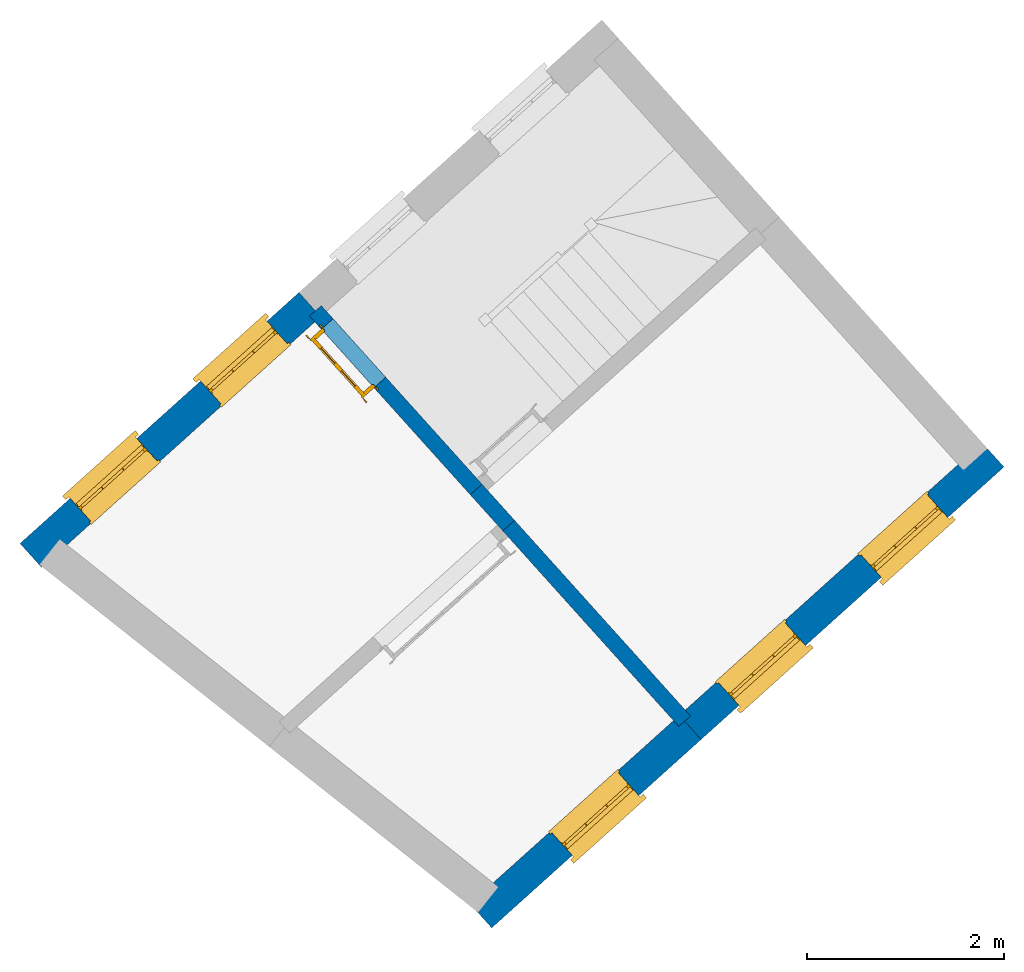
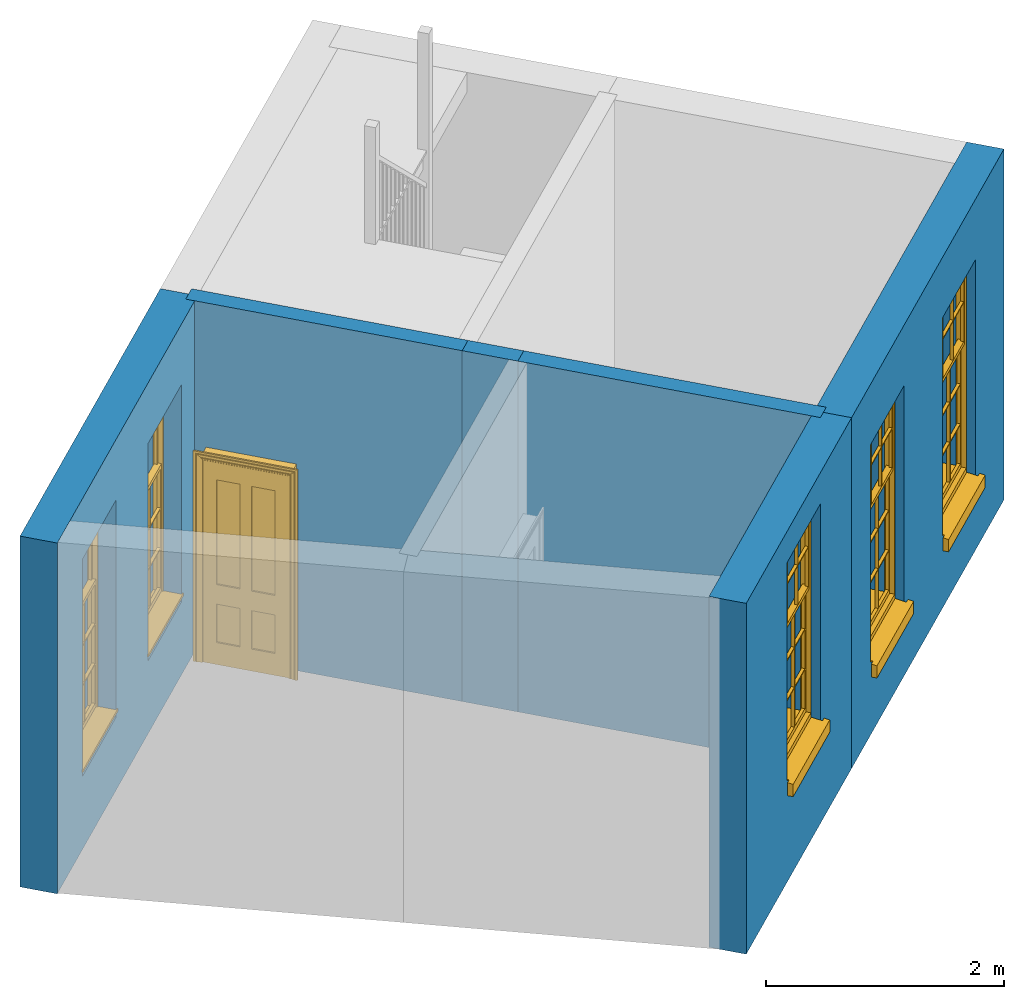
# One storey, part 2 of 4: 6 walls, 5 windows, 1 door, 6 openings.
"""IFC4 building model written with IfcOpenShell, lengths in metres."""

from ifc_helpers import new_model, si_unit, frame, origin, origin_with_axes, place, context, subcontext, project, spatial, polyline, outline, extrude, faceted_brep, source, transform, mapped, material, layer, layer_set, layer_usage, type_object, type_shapes, element, fill, save


model = new_model("IFC4")

# Units and contexts
model_context = context("Model", 3, world=origin_with_axes())
body_context = subcontext(model_context, "Body", "Model", "MODEL_VIEW")
ifc_project = project(units=[si_unit("PLANEANGLEUNIT", "RADIAN"), si_unit("MASSUNIT", "GRAM", prefix="KILO"), si_unit("FORCEUNIT", "NEWTON", prefix="KILO"), si_unit("LENGTHUNIT", "METRE"), si_unit("AREAUNIT", "SQUARE_METRE"), si_unit("VOLUMEUNIT", "CUBIC_METRE")], contexts=[model_context, model_context])

# Sites, building, storey
site_1_placement = place(None, origin_with_axes())
site_1 = spatial("IfcSite", under=ifc_project, at=site_1_placement, Name="Tamar")
site_2_placement = place(site_1_placement, origin_with_axes())
site_2 = spatial("IfcSite", under=site_1, at=site_2_placement, Name="Site plot-6", CompositionType="ELEMENT")
building_placement = place(None, origin_with_axes())
building = spatial("IfcBuilding", under=site_2, at=building_placement, Name="Building plot-6", CompositionType="ELEMENT")
storey_placement = place(None, frame((0.0, 0.0, 28.1), z_axis=(0.0, 0.0, 1.0), x_axis=(1.0, 0.0, 0.0)))
storey = spatial("IfcBuildingStorey", under=building, at=storey_placement, Name="plot-6 1", CompositionType="ELEMENT", Elevation=28.1)

# Wall, opening, window
ifc_material_1 = material(Name="Masonry")
ifc_layer_1 = layer(ifc_material_1, 0.33, ventilated=False)
ifc_layer_set_1 = layer_set([ifc_layer_1], Name="exterior_0.08_0.25")
ifc_layer_usage_1 = layer_usage(ifc_layer_set_1, "AXIS2", "POSITIVE", -0.25)
wall_type_1 = type_object("IfcWallType", Name="exterior_0.08_0.25", PredefinedType="SOLIDWALL", material=ifc_layer_set_1)
wall_1_placement = place(storey_placement, frame((235.821303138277, 276.271643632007, 0.0), z_axis=(0.0, 0.0, 1.0), x_axis=(0.743394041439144, 0.668853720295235, 0.0)))
wall_1 = element("IfcWall", 1, at=wall_1_placement, inside=storey, type_object=wall_type_1, material=ifc_layer_usage_1, Name="exterior", context=body_context, shape_type="SweptSolid", body=[
    extrude(outline(polyline([(-0.249999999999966, 0.0800000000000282), (-0.249999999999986, -0.249999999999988), (2.61264256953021, -0.250000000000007), (2.61264256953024, 0.0800000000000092), (-0.249999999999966, 0.0800000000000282)])), origin_with_axes(), (0.0, 0.0, 1.0), 3.6),
])
opening_1_placement = place(wall_1_placement, frame((0.851321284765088, 0.0, 1.05)))
opening_1 = element("IfcOpeningElement", 2, at=opening_1_placement, cuts=wall_1, Name="My Opening", ObjectType="Opening", context=body_context, shape_type="SweptSolid", body=[
    extrude(outline(polyline([(0.0, -0.269999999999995), (0.910000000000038, -0.269999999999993), (0.910000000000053, 1.10000000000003), (1.50990331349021e-14, 1.10000000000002), (0.0, -0.269999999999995)])), origin_with_axes(), (0.0, 0.0, 1.0), 2.23),
])
window_type = type_object("IfcWindowType", Name="sash_big_taller", PartitioningType="DOUBLE_PANEL_HORIZONTAL", PredefinedType="NOTDEFINED")
shared_shape_1 = source(origin(), body_context, "Body", "Brep", [
    faceted_brep([(0.033125, 0.145, 1.385209), (0.01, 0.145, 1.385209), (0.033125, 0.145, 1.786042), (0.876875, 0.145, 1.385209), (0.876875, 0.145, 1.786042), (0.9, 0.145, 1.385209), (0.876875, 0.145, 1.796042), (0.876875, 0.145, 2.196875), (0.9, 0.145, 2.22), (0.033125, 0.145, 2.196875), (0.033125, 0.145, 1.796042), (0.01, 0.145, 2.22), (0.876875, 0.115, 1.786042), (0.876875, 0.115, 1.385209), (0.9, 0.115, 1.347084), (0.033125, 0.115, 2.196875), (0.01, 0.115, 2.22), (0.033125, 0.115, 1.796042), (0.01, 0.115, 1.347084), (0.033125, 0.115, 1.385209), (0.033125, 0.115, 1.786042), (0.876875, 0.115, 2.196875), (0.876875, 0.115, 1.796042), (0.9, 0.115, 2.22), (0.033125, 0.145, 1.347084), (0.01, 0.145, 1.347084), (0.033125, 0.145, 0.94625), (0.876875, 0.145, 1.347084), (0.876875, 0.145, 0.94625), (0.9, 0.145, 1.347084), (0.876875, 0.145, 0.52625), (0.876875, 0.145, 0.125417), (0.9, 0.145, 0.077167), (0.033125, 0.145, 0.125417), (0.033125, 0.145, 0.52625), (0.01, 0.145, 0.077167), (-0.0425, 0.0, 0.01), (-0.0425, -0.05, 0.001667), (0.0, 0.0, 0.01), (0.9525, 0.0, 0.01), (0.91, 0.0, 0.01), (0.9525, -0.05, 0.001667), (-0.02, 0.33, 0.077167), (0.0, 0.33, 0.077167), (-0.02, 0.36, 0.077167), (0.0, 0.19, 0.077167), (0.01, 0.19, 0.077167), (0.91, 0.19, 0.077167), (0.91, 0.33, 0.077167), (0.9, 0.19, 0.077167), (0.93, 0.33, 0.077167), (0.93, 0.36, 0.077167), (0.01, 0.175, 1.385209), (0.9, 0.175, 1.385209), (0.876875, 0.175, 0.125417), (0.876875, 0.175, 0.52625), (0.9, 0.175, 0.077167), (0.876875, 0.175, 0.94625), (0.876875, 0.175, 1.347084), (0.033125, 0.175, 0.125417), (0.01, 0.175, 0.077167), (0.033125, 0.175, 0.52625), (0.033125, 0.175, 1.347084), (0.033125, 0.175, 0.94625), (-0.02, 0.33, 0.052167), (-0.02, 0.36, 0.052167), (0.93, 0.36, 0.052167), (0.93, 0.33, 0.052167), (0.91, 0.33, 0.052167), (0.0, 0.33, 0.052167), (0.91, 0.1, 0.026667), (0.0, 0.1, 0.026667), (-0.0425, -0.05, -0.123333), (0.9525, -0.05, -0.123333), (-0.0425, 0.0, -0.123333), (0.9525, 0.0, -0.123333), (0.01, 0.19, 2.22), (0.9, 0.19, 2.22), (0.0, 0.19, 2.23), (0.91, 0.19, 2.23), (0.01, 0.1, 0.077167), (0.9, 0.1, 0.077167), (0.592292, 0.145, 0.125417), (0.592292, 0.175, 0.125417), (0.317708, 0.175, 0.125417), (0.317708, 0.145, 0.125417), (0.592292, 0.145, 0.53625), (0.317708, 0.145, 0.53625), (0.317708, 0.145, 0.52625), (0.592292, 0.145, 0.52625), (0.592292, 0.175, 0.53625), (0.317708, 0.175, 0.53625), (0.592292, 0.115, 1.796042), (0.592292, 0.145, 1.796042), (0.317708, 0.145, 1.796042), (0.317708, 0.115, 1.796042), (0.317708, 0.115, 1.786042), (0.592292, 0.115, 1.786042), (0.317708, 0.145, 1.786042), (0.592292, 0.145, 1.786042), (0.602292, 0.115, 1.786042), (0.592292, 0.115, 1.385209), (0.602292, 0.115, 1.385209), (0.602292, 0.145, 1.385209), (0.592292, 0.145, 1.385209), (0.602292, 0.145, 1.786042), (0.876875, 0.145, 0.53625), (0.876875, 0.175, 0.53625), (0.602292, 0.175, 0.53625), (0.602292, 0.145, 0.53625), (0.317708, 0.175, 0.52625), (0.307708, 0.175, 0.125417), (0.307708, 0.175, 0.52625), (0.602292, 0.175, 0.52625), (0.602292, 0.175, 0.125417), (0.592292, 0.175, 0.52625), (0.307708, 0.175, 0.53625), (0.033125, 0.175, 0.53625), (0.317708, 0.175, 1.347084), (0.317708, 0.175, 0.94625), (0.307708, 0.175, 0.94625), (0.307708, 0.175, 1.347084), (0.602292, 0.175, 1.347084), (0.602292, 0.175, 0.94625), (0.592292, 0.175, 0.94625), (0.592292, 0.175, 1.347084), (0.307708, 0.145, 0.52625), (0.307708, 0.145, 0.125417), (0.307708, 0.145, 0.53625), (0.033125, 0.145, 0.53625), (0.307708, 0.145, 1.347084), (0.307708, 0.145, 0.94625), (0.592292, 0.145, 1.347084), (0.592292, 0.145, 0.94625), (0.317708, 0.145, 0.94625), (0.317708, 0.145, 1.347084), (0.602292, 0.145, 0.94625), (0.602292, 0.145, 1.347084), (0.602292, 0.145, 0.52625), (0.602292, 0.145, 0.125417), (0.307708, 0.115, 1.796042), (0.307708, 0.115, 1.786042), (0.307708, 0.115, 1.385209), (0.317708, 0.115, 1.385209), (0.317708, 0.115, 2.196875), (0.307708, 0.115, 2.196875), (0.602292, 0.115, 2.196875), (0.592292, 0.115, 2.196875), (0.602292, 0.115, 1.796042), (0.602292, 0.145, 1.796042), (0.307708, 0.145, 1.796042), (0.307708, 0.145, 2.196875), (0.317708, 0.145, 2.196875), (0.592292, 0.145, 2.196875), (0.602292, 0.145, 2.196875), (0.307708, 0.145, 1.786042), (0.317708, 0.145, 1.385209), (0.307708, 0.145, 1.385209), (0.876875, 0.175, 0.93625), (0.033125, 0.175, 0.93625), (0.033125, 0.145, 0.93625), (0.876875, 0.145, 0.93625), (0.91, 0.1, 2.23), (0.9, 0.1, 2.22), (0.01, 0.1, 2.22), (0.0, 0.1, 2.23), (0.91, 0.0, 0.0), (0.0, 0.0, 0.0), (0.91, 0.33, 0.0), (0.0, 0.33, 0.0), (0.317708, 0.145, 0.93625), (0.592292, 0.145, 0.93625), (0.317708, 0.175, 0.93625), (0.307708, 0.175, 0.93625), (0.602292, 0.175, 0.93625), (0.592292, 0.175, 0.93625), (0.307708, 0.145, 0.93625), (0.602292, 0.145, 0.93625)], [[[0, 1, 2]], [[3, 4, 5]], [[6, 7, 8]], [[9, 10, 11]], [[12, 13, 14]], [[15, 16, 17]], [[18, 19, 20]], [[21, 22, 23]], [[24, 25, 26]], [[27, 28, 29]], [[30, 31, 32]], [[33, 34, 35]], [[14, 27, 29]], [[25, 24, 18]], [[36, 37, 38]], [[39, 40, 41]], [[42, 43, 44]], [[45, 46, 43]], [[47, 48, 49]], [[50, 51, 48]], [[1, 0, 52]], [[5, 53, 3]], [[54, 55, 56]], [[57, 58, 53]], [[59, 60, 61]], [[62, 63, 52]], [[48, 43, 46, 49]], [[51, 44, 43, 48]], [[64, 42, 44, 65]], [[65, 44, 51, 66]], [[66, 51, 50, 67]], [[65, 66, 68, 69]], [[60, 56, 49, 46]], [[70, 71, 38, 40]], [[37, 41, 40, 38]], [[37, 72, 73, 41]], [[74, 75, 73, 72]], [[8, 11, 76, 77]], [[76, 78, 79, 77]], [[32, 35, 80, 81]], [[81, 80, 71, 70]], [[82, 83, 84, 85]], [[86, 87, 88, 89]], [[86, 90, 91, 87]], [[92, 93, 94, 95]], [[92, 95, 96, 97]], [[96, 98, 99, 97]], [[100, 97, 101, 102]], [[103, 104, 99, 105]], [[97, 99, 104, 101]], [[102, 103, 105, 100]], [[106, 107, 108, 109]], [[110, 84, 111, 112]], [[113, 114, 83, 115]], [[116, 112, 61, 117]], [[90, 115, 110, 91]], [[118, 119, 120, 121]], [[122, 123, 124, 125]], [[113, 108, 107, 55]], [[126, 112, 111, 127]], [[34, 61, 112, 126]], [[89, 115, 83, 82]], [[88, 110, 115, 89]], [[85, 84, 110, 88]], [[128, 116, 117, 129]], [[130, 121, 120, 131]], [[132, 125, 124, 133]], [[134, 119, 118, 135]], [[136, 123, 122, 137]], [[138, 113, 55, 30]], [[139, 114, 113, 138]], [[138, 30, 106, 109]], [[88, 126, 127, 85]], [[138, 89, 82, 139]], [[137, 132, 133, 136]], [[128, 129, 34, 126]], [[135, 130, 131, 134]], [[140, 17, 20, 141]], [[96, 141, 142, 143]], [[144, 145, 140, 95]], [[146, 147, 92, 148]], [[100, 12, 22, 148]], [[149, 6, 4, 105]], [[94, 150, 151, 152]], [[149, 93, 153, 154]], [[99, 98, 94, 93]], [[155, 2, 10, 150]], [[156, 157, 155, 98]], [[141, 155, 157, 142]], [[20, 2, 155, 141]], [[143, 156, 98, 96]], [[140, 150, 10, 17]], [[145, 151, 150, 140]], [[147, 153, 93, 92]], [[95, 94, 152, 144]], [[22, 6, 149, 148]], [[148, 149, 154, 146]], [[100, 105, 4, 12]], [[109, 86, 89, 138]], [[108, 113, 115, 90]], [[91, 110, 112, 116]], [[87, 128, 126, 88]], [[97, 100, 148, 92]], [[141, 96, 95, 140]], [[98, 155, 150, 94]], [[105, 99, 93, 149]], [[143, 101, 104, 156]], [[135, 118, 125, 132]], [[144, 152, 153, 147]], [[127, 111, 59, 33]], [[15, 9, 151, 145]], [[146, 154, 7, 21]], [[31, 54, 114, 139]], [[36, 74, 72, 37]], [[39, 41, 73, 75]], [[18, 14, 101, 143]], [[23, 16, 144, 147]], [[83, 56, 60, 84]], [[52, 53, 125, 118]], [[53, 52, 156, 104]], [[11, 8, 153, 152]], [[14, 18, 135, 132]], [[2, 1, 11, 10]], [[8, 5, 4, 6]], [[57, 53, 56, 158]], [[60, 52, 63, 159]], [[26, 25, 35, 160]], [[32, 29, 28, 161]], [[14, 23, 22, 12]], [[18, 20, 17, 16]], [[19, 0, 2, 20]], [[17, 10, 9, 15]], [[12, 4, 3, 13]], [[21, 7, 6, 22]], [[27, 58, 57, 28]], [[30, 55, 54, 31]], [[33, 59, 61, 34]], [[26, 63, 62, 24]], [[5, 8, 77, 53]], [[76, 11, 1, 52]], [[46, 45, 78, 76]], [[49, 77, 79, 47]], [[70, 162, 163, 81]], [[71, 80, 164, 165]], [[19, 142, 157, 0]], [[102, 13, 3, 103]], [[121, 130, 24, 62]], [[29, 32, 81, 14]], [[80, 35, 25, 18]], [[60, 46, 76, 52]], [[77, 49, 56, 53]], [[23, 14, 81, 163]], [[16, 164, 80, 18]], [[35, 85, 127]], [[127, 33, 35]], [[139, 82, 32]], [[32, 31, 139]], [[32, 82, 85, 35]], [[102, 101, 14]], [[14, 13, 102]], [[18, 143, 142]], [[142, 19, 18]], [[146, 21, 23]], [[23, 147, 146]], [[16, 15, 145]], [[145, 144, 16]], [[11, 152, 151]], [[151, 9, 11]], [[154, 153, 8]], [[8, 7, 154]], [[23, 163, 164, 16]], [[162, 165, 164, 163]], [[52, 118, 121]], [[121, 62, 52]], [[125, 53, 122]], [[58, 122, 53]], [[27, 137, 122, 58]], [[56, 83, 114]], [[114, 54, 56]], [[111, 84, 60]], [[60, 59, 111]], [[137, 27, 14]], [[14, 132, 137]], [[130, 135, 18]], [[18, 24, 130]], [[157, 156, 52]], [[52, 0, 157]], [[103, 3, 53]], [[53, 104, 103]], [[79, 78, 165, 162]], [[78, 45, 71, 165]], [[162, 70, 47, 79]], [[166, 75, 74, 167]], [[68, 66, 67]], [[48, 68, 67, 50]], [[69, 64, 65]], [[42, 64, 69, 43]], [[69, 68, 168, 169]], [[70, 68, 48, 47]], [[166, 168, 68, 70]], [[43, 69, 71, 45]], [[69, 169, 167, 71]], [[168, 166, 167, 169]], [[38, 167, 74, 36]], [[71, 167, 38]], [[39, 75, 166, 40]], [[40, 166, 70]], [[133, 134, 170, 171]], [[133, 124, 119, 134]], [[28, 57, 123, 136]], [[172, 91, 116, 173]], [[174, 108, 90, 175]], [[120, 173, 159, 63]], [[124, 175, 172, 119]], [[174, 123, 57, 158]], [[176, 173, 116, 128]], [[160, 159, 173, 176]], [[171, 175, 90, 86]], [[170, 172, 175, 171]], [[87, 91, 172, 170]], [[131, 120, 63, 26]], [[177, 174, 158, 161]], [[109, 108, 174, 177]], [[177, 161, 28, 136]], [[170, 176, 128, 87]], [[177, 171, 86, 109]], [[131, 26, 160, 176]], [[136, 133, 171, 177]], [[123, 174, 175, 124]], [[119, 172, 173, 120]], [[134, 131, 176, 170]], [[129, 117, 159, 160]], [[161, 158, 107, 106]], [[35, 34, 129]], [[35, 129, 160]], [[32, 106, 30]], [[32, 161, 106]], [[56, 55, 107]], [[56, 107, 158]], [[60, 117, 61]], [[60, 159, 117]]]),
])
type_shapes(window_type, [shared_shape_1])
window_1_placement = place(storey_placement, frame((236.634760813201, 276.6403366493, 1.05), z_axis=(0.0, 0.0, 1.0), x_axis=(0.676488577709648, 0.60865688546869, 0.0)))
window_1 = element("IfcWindow", 3, at=window_1_placement, inside=storey, type_object=window_type, Name="kitchen outside window", OverallHeight=2.23, OverallWidth=0.91, context=body_context, shape_type="MappedRepresentation", body=[
    mapped(shared_shape_1, transform((0.0, 0.0, 0.0), scale=1.0)),
])
fill(opening_1, window_1)

# Wall, openings, windows
wall_2_placement = place(storey_placement, frame((237.763526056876, 278.019119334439, 0.0), z_axis=(0.0, 0.0, 1.0), x_axis=(0.743394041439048, 0.668853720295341, 0.0)))
wall_2 = element("IfcWall", 4, at=wall_2_placement, inside=storey, type_object=wall_type_1, material=ifc_layer_usage_1, Name="exterior", context=body_context, shape_type="SweptSolid", body=[
    extrude(outline(polyline([(3.37734421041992e-14, 0.0800000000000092), (-3.37354718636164e-14, -0.250000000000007), (4.14063342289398, -0.25000000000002), (4.14063342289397, 0.0799999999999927), (3.37734421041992e-14, 0.0800000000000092)])), origin_with_axes(), (0.0, 0.0, 1.0), 3.6),
])
opening_2_placement = place(wall_2_placement, frame((0.517658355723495, 0.0, 0.75)))
opening_2 = element("IfcOpeningElement", 5, at=opening_2_placement, cuts=wall_2, Name="My Opening", ObjectType="Opening", context=body_context, shape_type="SweptSolid", body=[
    extrude(outline(polyline([(0.0, -0.269999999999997), (0.909999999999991, -0.270000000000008), (0.91000000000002, 1.10000000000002), (2.91988655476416e-14, 1.10000000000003), (0.0, -0.269999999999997)])), origin_with_axes(), (0.0, 0.0, 1.0), 2.23),
])
opening_3_placement = place(wall_2_placement, frame((2.46297506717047, 0.0, 0.75)))
opening_3 = element("IfcOpeningElement", 6, at=opening_3_placement, cuts=wall_2, Name="My Opening", ObjectType="Opening", context=body_context, shape_type="SweptSolid", body=[
    extrude(outline(polyline([(0.0, -0.270000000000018), (0.909999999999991, -0.270000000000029), (0.910000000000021, 1.1), (2.93098878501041e-14, 1.10000000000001), (0.0, -0.270000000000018)])), origin_with_axes(), (0.0, 0.0, 1.0), 2.23),
])
window_2_placement = place(storey_placement, frame((238.328940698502, 278.164640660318, 0.75), z_axis=(0.0, 0.0, 1.0), x_axis=(0.676488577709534, 0.608656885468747, 0.0)))
window_2 = element("IfcWindow", 7, at=window_2_placement, inside=storey, type_object=window_type, Name="bedroom outside window", OverallHeight=2.23, OverallWidth=0.91, context=body_context, shape_type="MappedRepresentation", body=[
    mapped(shared_shape_1, transform((0.0, 0.0, 0.0), scale=1.0)),
])
fill(opening_2, window_2)
window_3_placement = place(storey_placement, frame((239.775077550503, 279.465772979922, 0.75), z_axis=(0.0, 0.0, 1.0), x_axis=(0.676488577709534, 0.608656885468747, 0.0)))
window_3 = element("IfcWindow", 8, at=window_3_placement, inside=storey, type_object=window_type, Name="bedroom outside window", OverallHeight=2.23, OverallWidth=0.91, context=body_context, shape_type="MappedRepresentation", body=[
    mapped(shared_shape_1, transform((0.0, 0.0, 0.0), scale=1.0)),
])
fill(opening_3, window_3)

wall_3_placement = place(storey_placement, frame((234.010812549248, 282.190053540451, 0.0), z_axis=(0.0, 0.0, 1.0), x_axis=(-0.743394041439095, -0.668853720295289, 0.0)))
wall_3 = element("IfcWall", 9, at=wall_3_placement, inside=storey, type_object=wall_type_1, material=ifc_layer_usage_1, Name="exterior", context=body_context, shape_type="SweptSolid", body=[
    extrude(outline(polyline([(-3.09943590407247e-14, 0.0799999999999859), (4.90028939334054e-15, -0.250000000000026), (3.81343681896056, -0.249999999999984), (3.81343681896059, 0.0800000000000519), (-3.09943590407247e-14, 0.0799999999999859)])), origin_with_axes(), (0.0, 0.0, 1.0), 3.6),
])
opening_4_placement = place(wall_3_placement, frame((0.435859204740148, 0.0, 0.75)))
opening_4 = element("IfcOpeningElement", 10, at=opening_4_placement, cuts=wall_3, Name="My Opening", ObjectType="Opening", context=body_context, shape_type="SweptSolid", body=[
    extrude(outline(polyline([(0.0, -0.27), (0.909999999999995, -0.270000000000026), (0.910000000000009, 1.10000000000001), (1.32116539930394e-14, 1.10000000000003), (0.0, -0.27)])), origin_with_axes(), (0.0, 0.0, 1.0), 2.23),
])
opening_5_placement = place(wall_3_placement, frame((2.21757761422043, 0.0, 0.75)))
opening_5 = element("IfcOpeningElement", 11, at=opening_5_placement, cuts=wall_3, Name="My Opening", ObjectType="Opening", context=body_context, shape_type="SweptSolid", body=[
    extrude(outline(polyline([(0.0, -0.269999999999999), (0.909999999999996, -0.270000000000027), (0.91000000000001, 1.10000000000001), (1.33226762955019e-14, 1.10000000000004), (0.0, -0.269999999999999)])), origin_with_axes(), (0.0, 0.0, 1.0), 2.23),
])
window_4_placement = place(storey_placement, frame((233.506206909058, 282.099243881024, 0.75), z_axis=(0.0, 0.0, 1.0), x_axis=(-0.676488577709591, -0.60865688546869, 0.0)))
window_4 = element("IfcWindow", 12, at=window_4_placement, inside=storey, type_object=window_type, Name="living outside window", OverallHeight=2.23, OverallWidth=0.91, context=body_context, shape_type="MappedRepresentation", body=[
    mapped(shared_shape_1, transform((0.0, 0.0, 0.0), scale=1.0)),
])
fill(opening_4, window_4)
window_5_placement = place(storey_placement, frame((232.181688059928, 280.907534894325, 0.75), z_axis=(0.0, 0.0, 1.0), x_axis=(-0.676488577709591, -0.60865688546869, 0.0)))
window_5 = element("IfcWindow", 13, at=window_5_placement, inside=storey, type_object=window_type, Name="living outside window", OverallHeight=2.23, OverallWidth=0.91, context=body_context, shape_type="MappedRepresentation", body=[
    mapped(shared_shape_1, transform((0.0, 0.0, 0.0), scale=1.0)),
])
fill(opening_5, window_5)

# Walls
ifc_material_2 = material(Name="Masonry")
ifc_layer_2 = layer(ifc_material_2, 0.16, ventilated=False)
ifc_layer_set_2 = layer_set([ifc_layer_2], Name="interior_0.08_0.08")
ifc_layer_usage_2 = layer_usage(ifc_layer_set_2, "AXIS2", "POSITIVE", -0.08)
wall_type_2 = type_object("IfcWallType", Name="interior_0.08_0.08", PredefinedType="SOLIDWALL", material=ifc_layer_set_2)
wall_4_placement = place(storey_placement, frame((235.645446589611, 280.373247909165, 0.0), z_axis=(0.0, 0.0, 1.0), x_axis=(0.668853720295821, -0.743394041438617, 0.0)))
element("IfcWall", 14, at=wall_4_placement, inside=storey, type_object=wall_type_2, material=ifc_layer_usage_2, Name="interior", context=body_context, shape_type="SweptSolid", body=[
    extrude(outline(polyline([(-1.60178401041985e-14, 0.0800000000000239), (1.59725157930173e-14, -0.0800000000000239), (0.49250937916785, -0.0800000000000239), (0.492509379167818, 0.0800000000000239), (-1.60178401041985e-14, 0.0800000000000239)])), origin_with_axes(), (0.0, 0.0, 1.0), 3.6),
])
wall_5_placement = place(storey_placement, frame((235.974863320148, 280.007119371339, 0.0), z_axis=(0.0, 0.0, 1.0), x_axis=(0.668853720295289, -0.743394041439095, 0.0)))
element("IfcWall", 15, at=wall_5_placement, inside=storey, type_object=wall_type_2, material=ifc_layer_usage_2, Name="interior", context=body_context, shape_type="SweptSolid", body=[
    extrude(outline(polyline([(-1.19322193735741e-14, 0.080000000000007), (1.1922422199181e-14, -0.080000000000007), (2.67422110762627, -0.0800000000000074), (2.67422110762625, 0.0800000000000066), (-1.19322193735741e-14, 0.080000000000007)])), origin_with_axes(), (0.0, 0.0, 1.0), 3.6),
])

# Wall, opening, door
wall_6_placement = place(storey_placement, frame((235.645446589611, 280.373247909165, 0.0), z_axis=(0.0, 0.0, 1.0), x_axis=(-0.668853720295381, 0.743394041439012, 0.0)))
wall_6 = element("IfcWall", 16, at=wall_6_placement, inside=storey, type_object=wall_type_2, material=ifc_layer_usage_2, Name="interior", context=body_context, shape_type="SweptSolid", body=[
    extrude(outline(polyline([(-2.09120248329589e-15, 0.080000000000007), (2.08323608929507e-15, -0.080000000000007), (2.44393353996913, -0.0800000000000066), (2.44393353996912, 0.0800000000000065), (-2.09120248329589e-15, 0.080000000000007)])), origin_with_axes(), (0.0, 0.0, 1.0), 3.6),
])
opening_6_placement = place(wall_6_placement, frame((1.46393353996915, 0.0, 0.0199999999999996)))
opening_6 = element("IfcOpeningElement", 17, at=opening_6_placement, cuts=wall_6, Name="My Opening", ObjectType="Opening", context=body_context, shape_type="SweptSolid", body=[
    extrude(outline(polyline([(0.0, -0.100000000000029), (0.79999999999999, -0.100000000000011), (0.799999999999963, 1.10000000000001), (-2.70894418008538e-14, 1.1), (0.0, -0.100000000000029)])), origin_with_axes(), (0.0, 0.0, 1.0), 2.1),
])
door_type = type_object("IfcDoorType", Name="door_inside", OperationType="SINGLE_SWING_LEFT", PredefinedType="NOTDEFINED")
shared_shape_2 = source(origin(), body_context, "Body", "Brep", [
    faceted_brep([(0.773, 0.33, 1.895), (0.66, 0.33, 1.895), (0.66, 0.33, 2.073), (0.773, 0.33, 2.073), (0.773, 0.33, 0.82), (0.66, 0.33, 0.82), (0.45, 0.33, 1.895), (0.45, 0.33, 2.073), (0.773, 0.33, 0.62), (0.66, 0.33, 0.62), (0.66, 0.315, 0.82), (0.66, 0.315, 1.895), (0.45, 0.315, 1.895), (0.35, 0.33, 1.895), (0.35, 0.33, 2.073), (0.773, 0.33, 0.225), (0.66, 0.33, 0.225), (0.45, 0.33, 0.62), (0.45, 0.33, 0.82), (0.45, 0.315, 0.82), (0.35, 0.33, 0.82), (0.14, 0.33, 2.073), (0.14, 0.33, 1.895), (0.773, 0.33, 0.0), (0.66, 0.33, 0.0), (0.66, 0.315, 0.225), (0.66, 0.315, 0.62), (0.45, 0.315, 0.62), (0.35, 0.33, 0.62), (0.35, 0.315, 0.82), (0.35, 0.315, 1.895), (0.14, 0.315, 1.895), (0.027, 0.33, 2.073), (0.027, 0.33, 1.895), (0.773, 0.292, 0.0), (0.66, 0.292, 0.0), (0.45, 0.33, 0.0), (0.45, 0.33, 0.225), (0.45, 0.315, 0.225), (0.35, 0.33, 0.225), (0.14, 0.33, 0.82), (0.14, 0.33, 0.62), (0.14, 0.315, 0.82), (0.027, 0.33, 0.82), (0.773, 0.292, 0.225), (0.66, 0.292, 0.225), (0.45, 0.292, 0.0), (0.35, 0.33, 0.0), (0.35, 0.315, 0.225), (0.35, 0.315, 0.62), (0.14, 0.315, 0.62), (0.027, 0.33, 0.62), (0.773, 0.292, 0.62), (0.66, 0.292, 0.62), (0.45, 0.292, 0.225), (0.35, 0.292, 0.0), (0.14, 0.33, 0.225), (0.14, 0.33, 0.0), (0.14, 0.315, 0.225), (0.027, 0.33, 0.225), (0.773, 0.292, 0.82), (0.66, 0.292, 0.82), (0.66, 0.307, 0.62), (0.66, 0.307, 0.225), (0.45, 0.307, 0.225), (0.35, 0.292, 0.225), (0.14, 0.292, 0.0), (0.027, 0.33, 0.0), (0.773, 0.292, 1.895), (0.66, 0.292, 1.895), (0.45, 0.292, 0.62), (0.45, 0.292, 0.82), (0.45, 0.307, 0.62), (0.35, 0.292, 0.62), (0.14, 0.292, 0.225), (0.027, 0.292, 0.0), (0.773, 0.292, 2.073), (0.66, 0.292, 2.073), (0.66, 0.307, 1.895), (0.66, 0.307, 0.82), (0.45, 0.307, 0.82), (0.35, 0.292, 0.82), (0.35, 0.307, 0.62), (0.35, 0.307, 0.225), (0.14, 0.307, 0.225), (0.027, 0.292, 0.225), (0.45, 0.292, 1.895), (0.45, 0.292, 2.073), (0.45, 0.307, 1.895), (0.35, 0.292, 1.895), (0.14, 0.292, 0.82), (0.14, 0.292, 0.62), (0.14, 0.307, 0.62), (0.027, 0.292, 0.62), (0.35, 0.292, 2.073), (0.35, 0.307, 1.895), (0.35, 0.307, 0.82), (0.14, 0.307, 0.82), (0.027, 0.292, 0.82), (0.14, 0.292, 2.073), (0.14, 0.292, 1.895), (0.14, 0.307, 1.895), (0.027, 0.292, 1.895), (0.027, 0.292, 2.073), (0.02, 0.335, 0.0), (0.005, 0.34, 0.0), (0.005, 0.34, 2.095), (0.02, 0.335, 2.08), (0.02, 0.33, 0.0), (0.0, 0.335, 0.0), (0.0, 0.335, 2.1), (0.795, 0.34, 2.095), (0.78, 0.335, 2.08), (0.02, 0.33, 2.08), (0.0, 0.33, 0.0), (-0.032, 0.345, 0.0), (-0.032, 0.345, 2.132), (0.8, 0.335, 2.1), (0.795, 0.34, 0.0), (0.78, 0.335, 0.0), (0.78, 0.33, 2.08), (0.04, 0.29, 0.0), (0.025, 0.29, 0.0), (0.025, 0.29, 2.075), (0.04, 0.29, 2.06), (-0.04, 0.34, 0.0), (-0.04, 0.34, 2.14), (0.832, 0.345, 2.132), (0.8, 0.335, 0.0), (0.78, 0.33, 0.0), (0.8, 0.33, 0.0), (0.86, 0.33, 0.0), (0.86, 0.33, 2.16), (0.8, 0.33, 2.1), (-0.06, 0.33, 2.16), (0.0, 0.33, 2.1), (-0.06, 0.33, 0.0), (-0.04, 0.345, 0.0), (-0.04, 0.345, 2.14), (0.84, 0.34, 2.14), (0.832, 0.345, 0.0), (0.84, 0.34, 0.0), (0.86, 0.345, 0.0), (0.86, 0.345, 2.16), (-0.06, 0.345, 2.16), (-0.06, 0.345, 0.0), (0.84, 0.345, 0.0), (0.84, 0.345, 2.14), (-0.025, 0.155, 0.0), (-0.025, 0.16, 0.0), (-0.025, 0.16, 2.125), (-0.025, 0.155, 2.125), (-0.017, 0.155, 0.0), (-0.017, 0.155, 2.117), (0.825, 0.16, 2.125), (0.825, 0.155, 2.125), (0.825, 0.155, 0.0), (0.845, 0.155, 0.0), (-0.045, 0.155, 2.145), (-0.045, 0.155, 0.0), (0.845, 0.155, 2.145), (0.015, 0.165, 0.0), (0.015, 0.165, 2.085), (0.817, 0.155, 2.117), (0.825, 0.16, 0.0), (0.845, 0.17, 0.0), (0.845, 0.17, 2.145), (-0.045, 0.17, 2.145), (-0.045, 0.17, 0.0), (0.02, 0.16, 0.0), (0.02, 0.16, 2.08), (0.785, 0.165, 2.085), (0.817, 0.155, 0.0), (0.8, 0.17, 0.0), (0.8, 0.17, 2.1), (0.0, 0.17, 2.1), (0.0, 0.17, 0.0), (0.035, 0.165, 0.0), (0.035, 0.165, 2.065), (0.78, 0.16, 2.08), (0.785, 0.165, 0.0), (0.775, 0.29, 2.075), (0.76, 0.29, 2.06), (0.035, 0.17, 2.065), (0.035, 0.17, 0.0), (0.765, 0.165, 2.065), (0.78, 0.16, 0.0), (0.765, 0.17, 0.0), (0.765, 0.17, 2.065), (0.765, 0.165, 0.0), (0.04, 0.17, 2.06), (0.04, 0.17, 0.0), (0.76, 0.17, 2.06), (0.76, 0.17, 0.0), (0.76, 0.29, 0.0), (0.775, 0.29, 0.0), (0.025, 0.33, 0.0), (0.025, 0.33, 2.075), (0.775, 0.33, 0.0), (0.775, 0.33, 2.075)], [[[0, 1, 2, 3]], [[1, 0, 4, 5]], [[1, 6, 7, 2]], [[8, 9, 5, 4]], [[1, 5, 10, 11]], [[6, 1, 11, 12]], [[6, 13, 14, 7]], [[15, 16, 9, 8]], [[9, 17, 18, 5]], [[5, 18, 19, 10]], [[10, 19, 12, 11]], [[18, 6, 12, 19]], [[18, 20, 13, 6]], [[21, 14, 13, 22]], [[23, 24, 16, 15]], [[9, 16, 25, 26]], [[17, 9, 26, 27]], [[17, 28, 20, 18]], [[13, 20, 29, 30]], [[22, 13, 30, 31]], [[32, 21, 22, 33]], [[34, 35, 24, 23]], [[24, 36, 37, 16]], [[16, 37, 38, 25]], [[25, 38, 27, 26]], [[37, 17, 27, 38]], [[37, 39, 28, 17]], [[40, 20, 28, 41]], [[20, 40, 42, 29]], [[31, 30, 29, 42]], [[40, 22, 31, 42]], [[33, 22, 40, 43]], [[35, 34, 44, 45]], [[35, 46, 36, 24]], [[36, 47, 39, 37]], [[28, 39, 48, 49]], [[41, 28, 49, 50]], [[43, 40, 41, 51]], [[45, 44, 52, 53]], [[46, 35, 45, 54]], [[46, 55, 47, 36]], [[56, 39, 47, 57]], [[39, 56, 58, 48]], [[50, 49, 48, 58]], [[56, 41, 50, 58]], [[51, 41, 56, 59]], [[53, 52, 60, 61]], [[45, 53, 62, 63]], [[54, 45, 63, 64]], [[55, 46, 54, 65]], [[55, 66, 57, 47]], [[59, 56, 57, 67]], [[61, 60, 68, 69]], [[70, 53, 61, 71]], [[53, 70, 72, 62]], [[72, 64, 63, 62]], [[70, 54, 64, 72]], [[65, 54, 70, 73]], [[65, 74, 66, 55]], [[67, 57, 66, 75]], [[69, 68, 76, 77]], [[61, 69, 78, 79]], [[71, 61, 79, 80]], [[73, 70, 71, 81]], [[65, 73, 82, 83]], [[74, 65, 83, 84]], [[74, 85, 75, 66]], [[86, 69, 77, 87]], [[69, 86, 88, 78]], [[88, 80, 79, 78]], [[86, 71, 80, 88]], [[81, 71, 86, 89]], [[73, 81, 90, 91]], [[73, 91, 92, 82]], [[83, 82, 92, 84]], [[91, 74, 84, 92]], [[91, 93, 85, 74]], [[89, 86, 87, 94]], [[81, 89, 95, 96]], [[90, 81, 96, 97]], [[90, 98, 93, 91]], [[94, 99, 100, 89]], [[89, 100, 101, 95]], [[101, 97, 96, 95]], [[100, 90, 97, 101]], [[100, 102, 98, 90]], [[99, 103, 102, 100]], [[32, 103, 99, 21]], [[102, 103, 32, 33]], [[98, 102, 33, 43]], [[21, 99, 94, 14]], [[94, 87, 7, 14]], [[7, 87, 77, 2]], [[76, 3, 2, 77]], [[43, 51, 93, 98]], [[51, 59, 85, 93]], [[67, 75, 85, 59]], [[34, 23, 15, 44]], [[44, 15, 8, 52]], [[52, 8, 4, 60]], [[0, 68, 60, 4]], [[0, 3, 76, 68]], [[104, 105, 106, 107]], [[104, 108, 109, 105]], [[105, 109, 110, 106]], [[107, 106, 111, 112]], [[107, 113, 108, 104]], [[114, 109, 108]], [[109, 115, 116, 110]], [[106, 110, 117, 111]], [[112, 111, 118, 119]], [[113, 107, 112, 120]], [[121, 122, 123, 124]], [[115, 109, 114, 125]], [[115, 125, 126, 116]], [[110, 116, 127, 117]], [[111, 117, 128, 118]], [[118, 128, 129, 119]], [[120, 112, 119, 129]], [[130, 129, 128]], [[130, 131, 132, 133]], [[133, 132, 134, 135]], [[135, 134, 136, 114]], [[136, 125, 114]], [[125, 137, 138, 126]], [[116, 126, 139, 127]], [[117, 127, 140, 128]], [[141, 130, 128, 140]], [[131, 130, 141]], [[131, 142, 143, 132]], [[132, 143, 144, 134]], [[134, 144, 145, 136]], [[137, 125, 136, 145]], [[143, 142, 146]], [[143, 146, 147]], [[137, 145, 144]], [[143, 147, 138]], [[138, 137, 144]], [[143, 138, 144]], [[126, 138, 147, 139]], [[127, 139, 141, 140]], [[142, 131, 141, 146]], [[139, 147, 146, 141]], [[148, 149, 150, 151]], [[149, 152, 153, 150]], [[151, 150, 154, 155]], [[155, 156, 157]], [[158, 159, 148]], [[158, 148, 151]], [[155, 157, 160]], [[158, 151, 155]], [[155, 160, 158]], [[152, 161, 162, 153]], [[150, 153, 163, 154]], [[155, 154, 164, 156]], [[156, 164, 165, 157]], [[157, 165, 166, 160]], [[160, 166, 167, 158]], [[158, 167, 168, 159]], [[161, 169, 170, 162]], [[153, 162, 171, 163]], [[154, 163, 172, 164]], [[165, 164, 173]], [[165, 173, 174, 166]], [[166, 174, 175, 167]], [[167, 175, 176, 168]], [[169, 177, 178, 170]], [[162, 170, 179, 171]], [[163, 171, 180, 172]], [[172, 180, 173, 164]], [[124, 123, 181, 182]], [[183, 178, 177, 184]], [[170, 178, 185, 179]], [[171, 179, 186, 180]], [[187, 173, 180]], [[185, 188, 187, 189]], [[188, 185, 178, 183]], [[179, 185, 189, 186]], [[189, 187, 180, 186]], [[190, 183, 184, 191]], [[192, 188, 183, 190]], [[191, 184, 122, 121]], [[124, 190, 191, 121]], [[193, 187, 188, 192]], [[182, 192, 190, 124]], [[184, 176, 122]], [[194, 195, 187, 193]], [[192, 182, 194, 193]], [[161, 176, 184]], [[114, 108, 122, 176]], [[173, 187, 195]], [[152, 149, 176, 161]], [[169, 161, 184, 177]], [[196, 122, 108]], [[176, 175, 135, 114]], [[173, 195, 129, 130]], [[176, 149, 168]], [[123, 122, 196, 197]], [[196, 108, 113, 197]], [[175, 174, 133, 135]], [[198, 129, 195]], [[133, 174, 173, 130]], [[159, 168, 149, 148]], [[181, 123, 197, 199]], [[197, 113, 120, 199]], [[199, 120, 129, 198]], [[195, 181, 199, 198]], [[195, 194, 182, 181]]]),
])
type_shapes(door_type, [shared_shape_2])
door_placement = place(storey_placement, frame((234.740628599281, 281.52841275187, 0.0199999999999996), z_axis=(0.0, 0.0, 1.0), x_axis=(-0.535082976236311, 0.594715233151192, 0.0)))
door = element("IfcDoor", 18, at=door_placement, inside=storey, type_object=door_type, Name="living inside door", OverallHeight=2.1, OverallWidth=0.8, context=body_context, shape_type="MappedRepresentation", body=[
    mapped(shared_shape_2, transform((0.0, 0.0, 0.0), scale=1.0)),
])
fill(opening_6, door)

save(model, "model.ifc")
